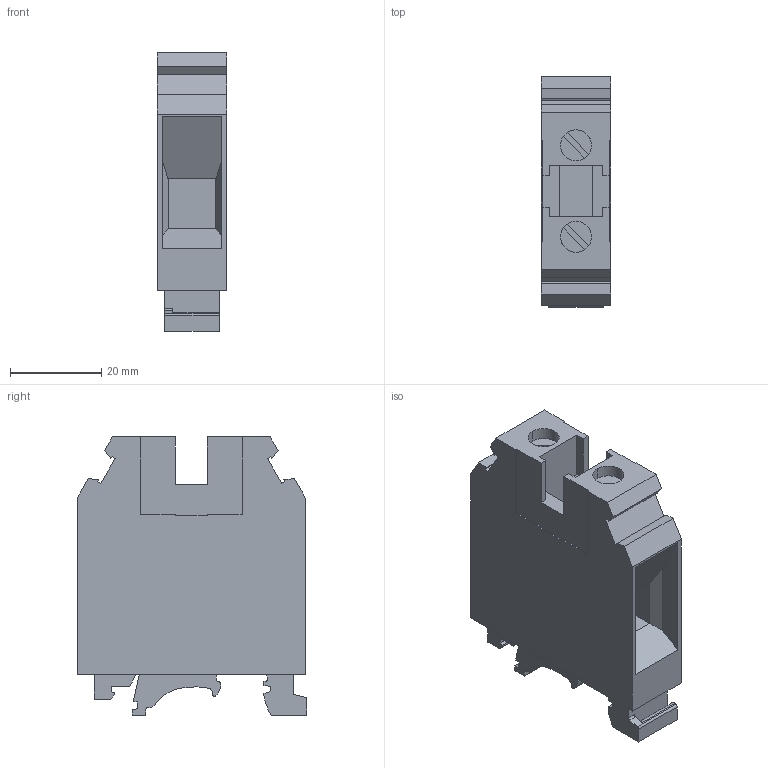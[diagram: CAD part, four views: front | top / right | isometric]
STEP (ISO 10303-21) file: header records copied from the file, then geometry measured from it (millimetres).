
FILE_DESCRIPTION(('STEP AP203'),'1');
FILE_NAME('3008012.stp','2022-01-20T09:17:50',('TraceParts'),('TraceParts S.A.'),'Spatial InterOp 3D',' ',' ');
FILE_SCHEMA(('CONFIG_CONTROL_DESIGN'));
Length unit declared in the file: millimetre
Products named in the file (1): 1
Bounding box: 15.1 x 50.3 x 60.9 mm (x, y, z)
Volume: 29221.8 mm3; surface area: 11920.7 mm2
Topology: 1 solids, 1 shells, 149 faces, 416 edges, 276 vertices
Faces by surface type: plane 126, cylinder 23
Entity records: 4776 total; most frequent: CARTESIAN_POINT 842, ORIENTED_EDGE 832, DIRECTION 770, EDGE_CURVE 416, LINE 362, VECTOR 362, VERTEX_POINT 276, AXIS2_PLACEMENT_3D 204
